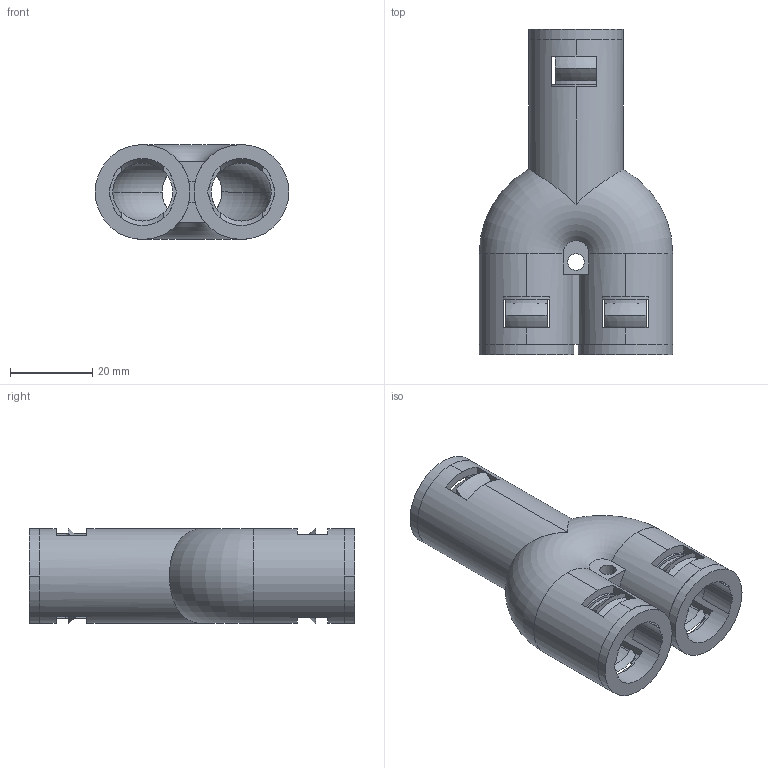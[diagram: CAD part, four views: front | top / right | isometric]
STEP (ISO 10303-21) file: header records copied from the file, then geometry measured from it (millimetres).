
FILE_DESCRIPTION (( 'STEP AP203' ), '1' );
FILE_NAME ('WQY-PA-AD15.8-2X15.8.STEP', '2012-06-06T08:04:30', ( '迾輿躂瑞' ), ( 'WwW.YlmF.CoM' ), 'SwSTEP 2.0', 'SolidWorks 2010', '' );
FILE_SCHEMA (( 'CONFIG_CONTROL_DESIGN' ));
Length unit declared in the file: millimetre
Products named in the file (3): WQY-PA-AD15.8-2X15.8; WQY-PA-3X15.8; NSK-AD15.8
Assembly tree (4 placements, depth 2):
  WQY-PA-AD15.8-2X15.8
    NSK-AD15.8  x3
    WQY-PA-3X15.8
Bounding box: 47 x 79 x 23 mm (x, y, z)
Volume: 23270.3 mm3; surface area: 21319 mm2
Topology: 4 solids, 4 shells, 215 faces, 634 edges, 421 vertices
Faces by surface type: plane 136, cylinder 58, torus 15, cone 6
Entity records: 5024 total; most frequent: CARTESIAN_POINT 1333, DIRECTION 721, ORIENTED_EDGE 716, EDGE_CURVE 358, AXIS2_PLACEMENT_3D 273, VERTEX_POINT 237, VECTOR 175, LINE 175
